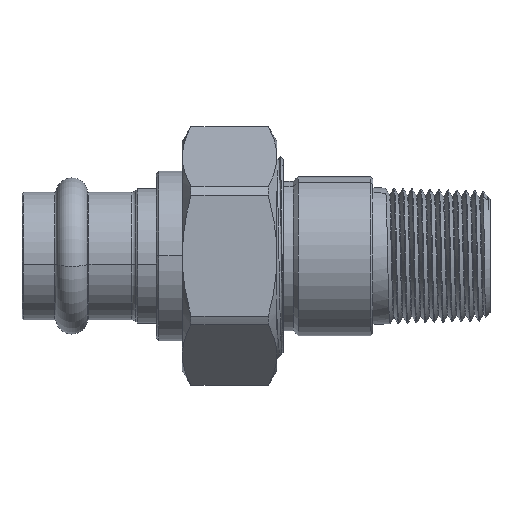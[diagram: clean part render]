
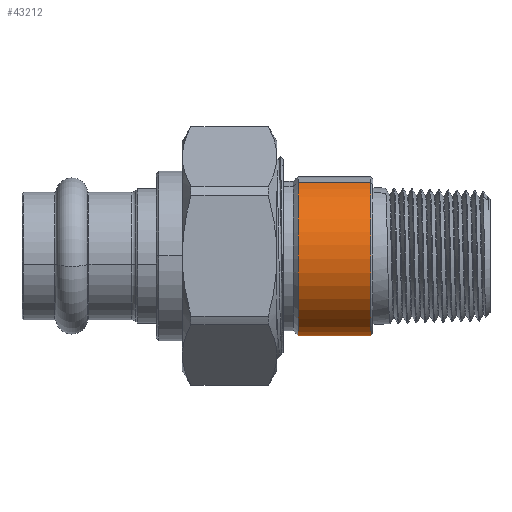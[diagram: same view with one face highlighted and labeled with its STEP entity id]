
A CAD part, top view. The second image highlights one B-rep face of the part: STEP entity #43212.
In plain terms, the highlighted cylindrical face has radius 0.63 mm (diameter 1.261 mm), a partial arc.
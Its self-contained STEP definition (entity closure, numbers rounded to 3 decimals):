
#19565 = VERTEX_POINT('',#19566);
#19566 = CARTESIAN_POINT('',(-29.154,-0.583,
    -12.536));
#19580 = CONICAL_SURFACE('',#19581,0.63,0.785);
#19581 = AXIS2_PLACEMENT_3D('',#19582,#19583,#19584);
#19582 = CARTESIAN_POINT('',(-29.154,0.,-12.296));
#19583 = DIRECTION('',(-1.,0.,0.));
#19584 = DIRECTION('',(0.,0.924,0.382));
#19593 = VERTEX_POINT('',#19594);
#19594 = CARTESIAN_POINT('',(-29.154,0.583,
    -12.055));
#19609 = CYLINDRICAL_SURFACE('',#19610,0.63);
#19610 = AXIS2_PLACEMENT_3D('',#19611,#19612,#19613);
#19611 = CARTESIAN_POINT('',(-29.843,0.,-12.296));
#19612 = DIRECTION('',(1.,0.,0.));
#19613 = DIRECTION('',(0.,-0.924,-0.382));
#24789 = VERTEX_POINT('',#24790);
#24790 = CARTESIAN_POINT('',(-29.725,0.583,
    -12.055));
#24804 = CONICAL_SURFACE('',#24805,0.926,0.785);
#24805 = AXIS2_PLACEMENT_3D('',#24806,#24807,#24808);
#24806 = CARTESIAN_POINT('',(-29.43,0.,-12.296));
#24807 = DIRECTION('',(1.,0.,0.));
#24808 = DIRECTION('',(0.,-0.924,-0.382));
#24817 = VERTEX_POINT('',#24818);
#24818 = CARTESIAN_POINT('',(-29.725,-0.583,
    -12.536));
#38003 = EDGE_CURVE('',#24789,#19593,#38004,.T.);
#38004 = SURFACE_CURVE('',#38005,(#38009,#38016),.PCURVE_S1.);
#38005 = LINE('',#38006,#38007);
#38006 = CARTESIAN_POINT('',(-29.843,0.583,
    -12.055));
#38007 = VECTOR('',#38008,1.);
#38008 = DIRECTION('',(1.,0.,0.));
#38009 = PCURVE('',#19609,#38010);
#38010 = DEFINITIONAL_REPRESENTATION('',(#38011),#38015);
#38011 = LINE('',#38012,#38013);
#38012 = CARTESIAN_POINT('',(3.142,0.));
#38013 = VECTOR('',#38014,1.);
#38014 = DIRECTION('',(0.,1.));
#38015 = ( GEOMETRIC_REPRESENTATION_CONTEXT(2) 
PARAMETRIC_REPRESENTATION_CONTEXT() REPRESENTATION_CONTEXT('2D SPACE',''
  ) );
#38016 = PCURVE('',#38017,#38022);
#38017 = CYLINDRICAL_SURFACE('',#38018,0.63);
#38018 = AXIS2_PLACEMENT_3D('',#38019,#38020,#38021);
#38019 = CARTESIAN_POINT('',(-29.843,0.,-12.296));
#38020 = DIRECTION('',(1.,0.,0.));
#38021 = DIRECTION('',(0.,-0.924,-0.382));
#38022 = DEFINITIONAL_REPRESENTATION('',(#38023),#38027);
#38023 = LINE('',#38024,#38025);
#38024 = CARTESIAN_POINT('',(3.142,0.));
#38025 = VECTOR('',#38026,1.);
#38026 = DIRECTION('',(0.,1.));
#38027 = ( GEOMETRIC_REPRESENTATION_CONTEXT(2) 
PARAMETRIC_REPRESENTATION_CONTEXT() REPRESENTATION_CONTEXT('2D SPACE',''
  ) );
#38030 = EDGE_CURVE('',#24817,#19565,#38031,.T.);
#38031 = SURFACE_CURVE('',#38032,(#38036,#38043),.PCURVE_S1.);
#38032 = LINE('',#38033,#38034);
#38033 = CARTESIAN_POINT('',(-29.843,-0.583,
    -12.536));
#38034 = VECTOR('',#38035,1.);
#38035 = DIRECTION('',(1.,0.,0.));
#38036 = PCURVE('',#19609,#38037);
#38037 = DEFINITIONAL_REPRESENTATION('',(#38038),#38042);
#38038 = LINE('',#38039,#38040);
#38039 = CARTESIAN_POINT('',(0.,0.));
#38040 = VECTOR('',#38041,1.);
#38041 = DIRECTION('',(0.,1.));
#38042 = ( GEOMETRIC_REPRESENTATION_CONTEXT(2) 
PARAMETRIC_REPRESENTATION_CONTEXT() REPRESENTATION_CONTEXT('2D SPACE',''
  ) );
#38043 = PCURVE('',#38017,#38044);
#38044 = DEFINITIONAL_REPRESENTATION('',(#38045),#38049);
#38045 = LINE('',#38046,#38047);
#38046 = CARTESIAN_POINT('',(6.283,0.));
#38047 = VECTOR('',#38048,1.);
#38048 = DIRECTION('',(0.,1.));
#38049 = ( GEOMETRIC_REPRESENTATION_CONTEXT(2) 
PARAMETRIC_REPRESENTATION_CONTEXT() REPRESENTATION_CONTEXT('2D SPACE',''
  ) );
#43212 = ADVANCED_FACE('',(#43213),#38017,.T.);
#43213 = FACE_BOUND('',#43214,.T.);
#43214 = EDGE_LOOP('',(#43215,#43216,#43238,#43239));
#43215 = ORIENTED_EDGE('',*,*,#38003,.F.);
#43216 = ORIENTED_EDGE('',*,*,#43217,.F.);
#43217 = EDGE_CURVE('',#24817,#24789,#43218,.T.);
#43218 = SURFACE_CURVE('',#43219,(#43224,#43231),.PCURVE_S1.);
#43219 = CIRCLE('',#43220,0.63);
#43220 = AXIS2_PLACEMENT_3D('',#43221,#43222,#43223);
#43221 = CARTESIAN_POINT('',(-29.725,0.,-12.296));
#43222 = DIRECTION('',(-1.,0.,0.));
#43223 = DIRECTION('',(-0.,-0.924,-0.382));
#43224 = PCURVE('',#38017,#43225);
#43225 = DEFINITIONAL_REPRESENTATION('',(#43226),#43230);
#43226 = LINE('',#43227,#43228);
#43227 = CARTESIAN_POINT('',(6.283,0.118));
#43228 = VECTOR('',#43229,1.);
#43229 = DIRECTION('',(-1.,0.));
#43230 = ( GEOMETRIC_REPRESENTATION_CONTEXT(2) 
PARAMETRIC_REPRESENTATION_CONTEXT() REPRESENTATION_CONTEXT('2D SPACE',''
  ) );
#43231 = PCURVE('',#24804,#43232);
#43232 = DEFINITIONAL_REPRESENTATION('',(#43233),#43237);
#43233 = LINE('',#43234,#43235);
#43234 = CARTESIAN_POINT('',(6.283,-0.296));
#43235 = VECTOR('',#43236,1.);
#43236 = DIRECTION('',(-1.,0.));
#43237 = ( GEOMETRIC_REPRESENTATION_CONTEXT(2) 
PARAMETRIC_REPRESENTATION_CONTEXT() REPRESENTATION_CONTEXT('2D SPACE',''
  ) );
#43238 = ORIENTED_EDGE('',*,*,#38030,.T.);
#43239 = ORIENTED_EDGE('',*,*,#43240,.T.);
#43240 = EDGE_CURVE('',#19565,#19593,#43241,.T.);
#43241 = SURFACE_CURVE('',#43242,(#43247,#43254),.PCURVE_S1.);
#43242 = CIRCLE('',#43243,0.63);
#43243 = AXIS2_PLACEMENT_3D('',#43244,#43245,#43246);
#43244 = CARTESIAN_POINT('',(-29.154,0.,-12.296));
#43245 = DIRECTION('',(-1.,0.,0.));
#43246 = DIRECTION('',(-0.,-0.924,-0.382));
#43247 = PCURVE('',#38017,#43248);
#43248 = DEFINITIONAL_REPRESENTATION('',(#43249),#43253);
#43249 = LINE('',#43250,#43251);
#43250 = CARTESIAN_POINT('',(6.283,0.69));
#43251 = VECTOR('',#43252,1.);
#43252 = DIRECTION('',(-1.,0.));
#43253 = ( GEOMETRIC_REPRESENTATION_CONTEXT(2) 
PARAMETRIC_REPRESENTATION_CONTEXT() REPRESENTATION_CONTEXT('2D SPACE',''
  ) );
#43254 = PCURVE('',#19580,#43255);
#43255 = DEFINITIONAL_REPRESENTATION('',(#43256),#43260);
#43256 = LINE('',#43257,#43258);
#43257 = CARTESIAN_POINT('',(3.142,0.));
#43258 = VECTOR('',#43259,1.);
#43259 = DIRECTION('',(1.,0.));
#43260 = ( GEOMETRIC_REPRESENTATION_CONTEXT(2) 
PARAMETRIC_REPRESENTATION_CONTEXT() REPRESENTATION_CONTEXT('2D SPACE',''
  ) );
